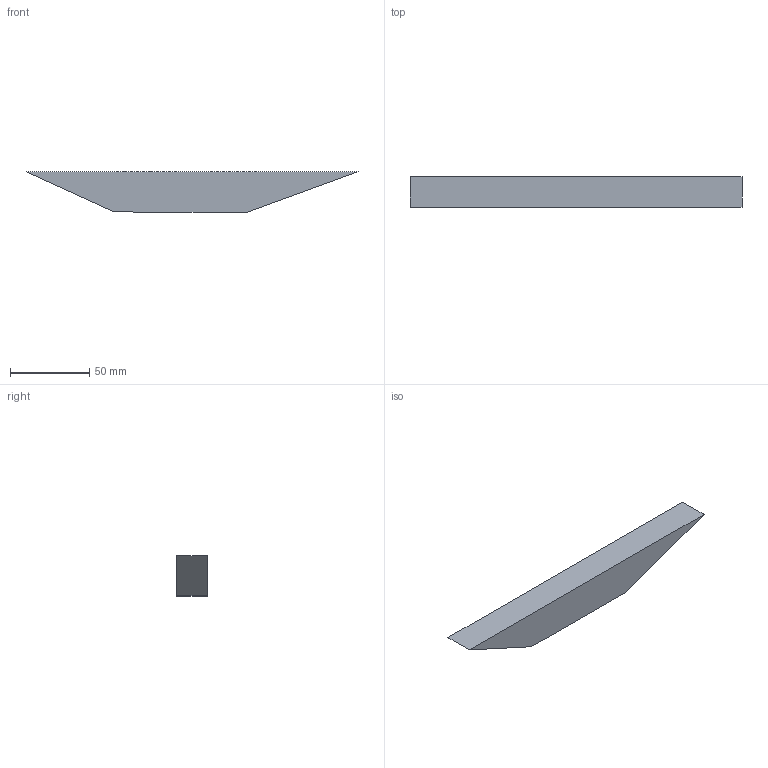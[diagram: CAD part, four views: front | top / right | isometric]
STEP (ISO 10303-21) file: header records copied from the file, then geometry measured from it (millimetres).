
FILE_DESCRIPTION(/* description */ ('STEP AP242 Edition 2','CAx-IF Rec.Pracs.---Representation and Presentation of Product Manufacturing Information (PMI)---4.0---2014-10-13','CAx-IF Rec.Pracs.---3D Tessellated Geometry---0.4---2014-09-14','2;1','CAx-IF Rec.Pracs.---User Defined Attributes---1.5---2016-08-15'),/* implementation_level */ '2;1');
FILE_NAME(/* name */ 'Part Studio 1 - Part 3',/* time_stamp */ '2026-05-08T15:01:28Z',/* author */ (''),/* organization */ (''),/* preprocessor_version */ 'ST-DEVELOPER v20',/* originating_system */ 'ONSHAPE BY PTC INC, 1.214',/* authorisation */ ' ');
FILE_SCHEMA (('AP242_MANAGED_MODEL_BASED_3D_ENGINEERING_MIM_LF { 1 0 10303 442 3 1 4 }'));
Length unit declared in the file: metre
Products named in the file (1): Part 3
Bounding box: 209.36 x 19.05 x 25.4 mm (x, y, z)
Volume: 70834 mm3; surface area: 15601.2 mm2
Topology: 1 solids, 1 shells, 7 faces, 15 edges, 10 vertices
Faces by surface type: plane 7
Entity records: 211 total; most frequent: CARTESIAN_POINT 33, DIRECTION 31, ORIENTED_EDGE 30, EDGE_CURVE 15, LINE 15, VECTOR 15, VERTEX_POINT 10, AXIS2_PLACEMENT_3D 8
